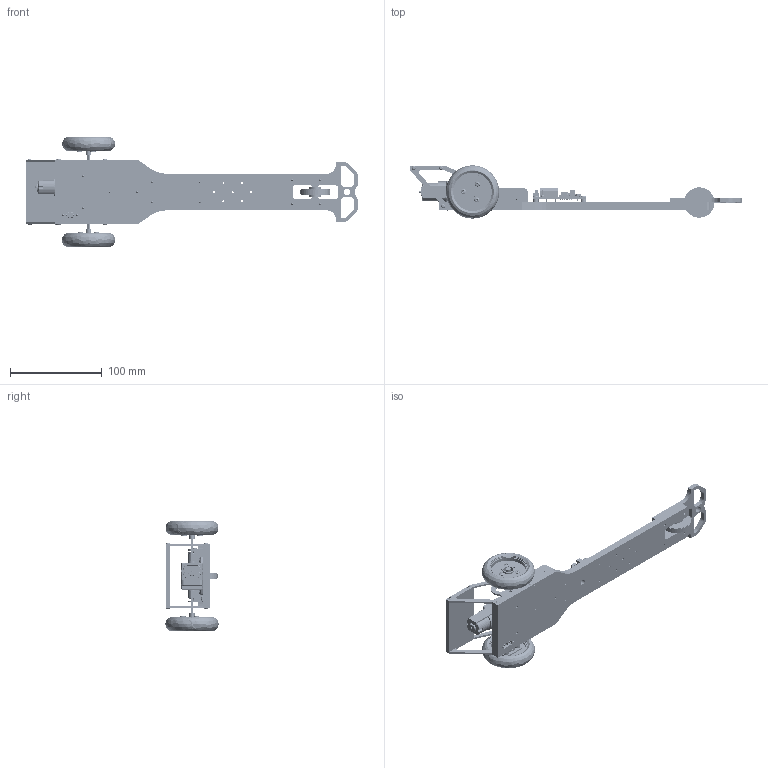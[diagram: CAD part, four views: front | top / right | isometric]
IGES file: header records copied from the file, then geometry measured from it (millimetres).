
Start section: SolidWorks IGES file using analytic representation for surfaces
Global section: file name: C:\Users\AndreBernot\Downloads\K-RACER-L_3D_SW\K-RACER-L_3D_SW\K-RACER-L-M.IGS; native system: SolidWorks 2015; preprocessor: SolidWorks 2015; author: AndreBernot; date: 170922.151306; units: millimetre
Bounding box: 361.5 x 58 x 119.84 mm (x, y, z)
Surface area: 134246.2 mm2 (no closed solid volume)
Topology: 0 solids, 0 shells, 2883 faces, 36720 edges, 36682 vertices
Faces by surface type: bspline 1805, revolution 1078
